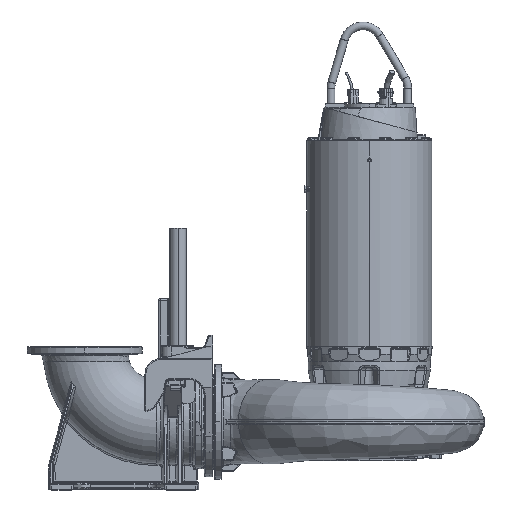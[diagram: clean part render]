
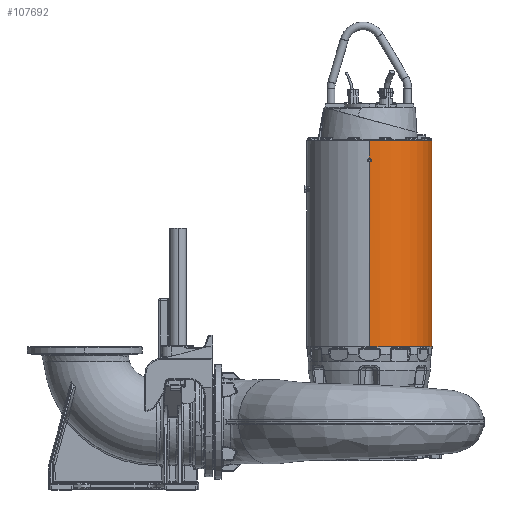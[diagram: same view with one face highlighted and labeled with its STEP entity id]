
A CAD part, top view. The second image highlights one B-rep face of the part: STEP entity #107692.
In plain terms, the highlighted cylindrical face has radius 322 mm (diameter 644 mm), a partial arc.
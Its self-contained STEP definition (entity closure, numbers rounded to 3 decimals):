
#220 = VERTEX_POINT ( 'NONE', #175279 ) ;
#1041 = CARTESIAN_POINT ( 'NONE',  ( 3.167, 930.859, -322. ) ) ;
#1392 = ORIENTED_EDGE ( 'NONE', *, *, #231148, .F. ) ;
#2151 = VECTOR ( 'NONE', #275818, 1000. ) ;
#7161 = DIRECTION ( 'NONE',  ( 0., -1., 0. ) ) ;
#8408 = VERTEX_POINT ( 'NONE', #128286 ) ;
#9678 = CARTESIAN_POINT ( 'NONE',  ( 9.5, 934.515, 321.86 ) ) ;
#11097 = AXIS2_PLACEMENT_3D ( 'NONE', #144288, #7161, #167360 ) ;
#11665 = CARTESIAN_POINT ( 'NONE',  ( 0., 929.03, 322. ) ) ;
#12415 =( BOUNDED_CURVE ( )  B_SPLINE_CURVE ( 3, ( #9678, #125664, #148755, #11665 ),
 .UNSPECIFIED., .F., .F. ) 
 B_SPLINE_CURVE_WITH_KNOTS ( ( 4, 4 ),
 ( 1.541, 1.571 ),
 .UNSPECIFIED. ) 
 CURVE ( )  GEOMETRIC_REPRESENTATION_ITEM ( )  RATIONAL_B_SPLINE_CURVE ( ( 1., 1., 1., 1. ) ) 
 REPRESENTATION_ITEM ( '' )  );
#25462 = DIRECTION ( 'NONE',  ( 0., -1., 0. ) ) ;
#31177 = VERTEX_POINT ( 'NONE', #118475 ) ;
#37735 = LINE ( 'NONE', #65121, #206117 ) ;
#43708 = LINE ( 'NONE', #93291, #273071 ) ;
#49382 = EDGE_LOOP ( 'NONE', ( #178478, #185965, #53600, #139860, #175888, #158227, #241424, #148206, #1392, #267059, #234858, #160331 ) ) ;
#50028 = CARTESIAN_POINT ( 'NONE',  ( 9.5, 934.515, -321.86 ) ) ;
#53600 = ORIENTED_EDGE ( 'NONE', *, *, #128378, .T. ) ;
#54023 = VECTOR ( 'NONE', #282494, 1000. ) ;
#54509 = CARTESIAN_POINT ( 'NONE',  ( 0., 950.97, -322. ) ) ;
#59909 = CARTESIAN_POINT ( 'NONE',  ( 0., 1040., 0. ) ) ;
#60588 = CARTESIAN_POINT ( 'NONE',  ( 0., 950.97, 322. ) ) ;
#62334 = EDGE_CURVE ( 'NONE', #220, #113668, #37735, .T. ) ;
#63170 =( BOUNDED_CURVE ( )  B_SPLINE_CURVE ( 3, ( #54509, #168588, #77452, #237757 ),
 .UNSPECIFIED., .F., .T. ) 
 B_SPLINE_CURVE_WITH_KNOTS ( ( 4, 4 ),
 ( 1.571, 1.6 ),
 .UNSPECIFIED. ) 
 CURVE ( )  GEOMETRIC_REPRESENTATION_ITEM ( )  RATIONAL_B_SPLINE_CURVE ( ( 1., 1., 1., 1. ) ) 
 REPRESENTATION_ITEM ( '' )  );
#65121 = CARTESIAN_POINT ( 'NONE',  ( 9.5, 1180.349, -321.86 ) ) ;
#69426 = CARTESIAN_POINT ( 'NONE',  ( 0., 929.03, -322. ) ) ;
#77452 = CARTESIAN_POINT ( 'NONE',  ( 6.334, 947.313, -321.953 ) ) ;
#82402 = EDGE_CURVE ( 'NONE', #289691, #119246, #205302, .T. ) ;
#82841 = DIRECTION ( 'NONE',  ( 0., 0., -1. ) ) ;
#83140 = CARTESIAN_POINT ( 'NONE',  ( 0., 929.03, 322. ) ) ;
#83780 = CYLINDRICAL_SURFACE ( 'NONE', #242300, 322. ) ;
#89425 = VERTEX_POINT ( 'NONE', #60588 ) ;
#93291 = CARTESIAN_POINT ( 'NONE',  ( 0., 0., 322. ) ) ;
#107692 = ADVANCED_FACE ( 'NONE', ( #112379 ), #83780, .T. ) ;
#109626 = CIRCLE ( 'NONE', #11097, 322. ) ;
#110012 = CARTESIAN_POINT ( 'NONE',  ( 9.5, 945.485, 321.86 ) ) ;
#112379 = FACE_OUTER_BOUND ( 'NONE', #49382, .T. ) ;
#113668 = VERTEX_POINT ( 'NONE', #50028 ) ;
#115372 = CARTESIAN_POINT ( 'NONE',  ( 0., 0., 322. ) ) ;
#116868 = EDGE_CURVE ( 'NONE', #8408, #219075, #268259, .T. ) ;
#118475 = CARTESIAN_POINT ( 'NONE',  ( 0., -20., 322. ) ) ;
#119246 = VERTEX_POINT ( 'NONE', #170186 ) ;
#119998 = AXIS2_PLACEMENT_3D ( 'NONE', #59909, #220108, #82841 ) ;
#123163 = CARTESIAN_POINT ( 'NONE',  ( 0., 950.97, 322. ) ) ;
#125664 = CARTESIAN_POINT ( 'NONE',  ( 6.334, 932.687, 321.953 ) ) ;
#125847 =( BOUNDED_CURVE ( )  B_SPLINE_CURVE ( 3, ( #275514, #138070, #1041, #161146 ),
 .UNSPECIFIED., .F., .T. ) 
 B_SPLINE_CURVE_WITH_KNOTS ( ( 4, 4 ),
 ( 1.541, 1.571 ),
 .UNSPECIFIED. ) 
 CURVE ( )  GEOMETRIC_REPRESENTATION_ITEM ( )  RATIONAL_B_SPLINE_CURVE ( ( 1., 1., 1., 1. ) ) 
 REPRESENTATION_ITEM ( '' )  );
#128286 = CARTESIAN_POINT ( 'NONE',  ( 0., 1040., -322. ) ) ;
#128378 = EDGE_CURVE ( 'NONE', #89425, #289691, #144976, .T. ) ;
#133206 = EDGE_CURVE ( 'NONE', #286339, #31177, #109626, .T. ) ;
#138070 = CARTESIAN_POINT ( 'NONE',  ( 6.334, 932.687, -321.953 ) ) ;
#139480 = CARTESIAN_POINT ( 'NONE',  ( 0., 0., -322. ) ) ;
#139860 = ORIENTED_EDGE ( 'NONE', *, *, #82402, .T. ) ;
#144288 = CARTESIAN_POINT ( 'NONE',  ( 0., -20., 0. ) ) ;
#144976 =( BOUNDED_CURVE ( )  B_SPLINE_CURVE ( 3, ( #123163, #201250, #247332, #110012 ),
 .UNSPECIFIED., .F., .T. ) 
 B_SPLINE_CURVE_WITH_KNOTS ( ( 4, 4 ),
 ( 1.571, 1.6 ),
 .UNSPECIFIED. ) 
 CURVE ( )  GEOMETRIC_REPRESENTATION_ITEM ( )  RATIONAL_B_SPLINE_CURVE ( ( 1., 1., 1., 1. ) ) 
 REPRESENTATION_ITEM ( '' )  );
#148148 = CARTESIAN_POINT ( 'NONE',  ( 0., -20., -322. ) ) ;
#148206 = ORIENTED_EDGE ( 'NONE', *, *, #261913, .F. ) ;
#148755 = CARTESIAN_POINT ( 'NONE',  ( 3.167, 930.859, 322. ) ) ;
#152864 = VERTEX_POINT ( 'NONE', #69426 ) ;
#158227 = ORIENTED_EDGE ( 'NONE', *, *, #293429, .T. ) ;
#160331 = ORIENTED_EDGE ( 'NONE', *, *, #165755, .F. ) ;
#161146 = CARTESIAN_POINT ( 'NONE',  ( 0., 929.03, -322. ) ) ;
#165755 = EDGE_CURVE ( 'NONE', #8408, #266611, #185693, .T. ) ;
#165938 = DIRECTION ( 'NONE',  ( 0., -1., 0. ) ) ;
#166925 = DIRECTION ( 'NONE',  ( 0., 0., -1. ) ) ;
#167360 = DIRECTION ( 'NONE',  ( 1., 0., 0. ) ) ;
#168588 = CARTESIAN_POINT ( 'NONE',  ( 3.167, 949.141, -322. ) ) ;
#170186 = CARTESIAN_POINT ( 'NONE',  ( 9.5, 934.515, 321.86 ) ) ;
#171587 = CARTESIAN_POINT ( 'NONE',  ( 9.5, 1180.349, 321.86 ) ) ;
#175279 = CARTESIAN_POINT ( 'NONE',  ( 9.5, 945.485, -321.86 ) ) ;
#175888 = ORIENTED_EDGE ( 'NONE', *, *, #226343, .T. ) ;
#177706 = LINE ( 'NONE', #115372, #2151 ) ;
#178478 = ORIENTED_EDGE ( 'NONE', *, *, #116868, .T. ) ;
#182946 = LINE ( 'NONE', #259499, #54023 ) ;
#185693 = LINE ( 'NONE', #139480, #253852 ) ;
#185965 = ORIENTED_EDGE ( 'NONE', *, *, #282013, .T. ) ;
#190826 = EDGE_CURVE ( 'NONE', #266611, #220, #63170, .T. ) ;
#196667 = CARTESIAN_POINT ( 'NONE',  ( 0., 950.97, -322. ) ) ;
#198365 = VERTEX_POINT ( 'NONE', #83140 ) ;
#201250 = CARTESIAN_POINT ( 'NONE',  ( 3.167, 949.141, 322. ) ) ;
#205302 = LINE ( 'NONE', #171587, #259101 ) ;
#206117 = VECTOR ( 'NONE', #225344, 1000. ) ;
#217745 = DIRECTION ( 'NONE',  ( 0., -1., 0. ) ) ;
#219075 = VERTEX_POINT ( 'NONE', #291567 ) ;
#220108 = DIRECTION ( 'NONE',  ( 0., -1., 0. ) ) ;
#225344 = DIRECTION ( 'NONE',  ( 0., -1., 0. ) ) ;
#226343 = EDGE_CURVE ( 'NONE', #119246, #198365, #12415, .T. ) ;
#231148 = EDGE_CURVE ( 'NONE', #113668, #152864, #125847, .T. ) ;
#234858 = ORIENTED_EDGE ( 'NONE', *, *, #190826, .F. ) ;
#237757 = CARTESIAN_POINT ( 'NONE',  ( 9.5, 945.485, -321.86 ) ) ;
#241424 = ORIENTED_EDGE ( 'NONE', *, *, #133206, .F. ) ;
#242300 = AXIS2_PLACEMENT_3D ( 'NONE', #280140, #165938, #166925 ) ;
#247332 = CARTESIAN_POINT ( 'NONE',  ( 6.334, 947.313, 321.953 ) ) ;
#253615 = DIRECTION ( 'NONE',  ( 0., -1., 0. ) ) ;
#253852 = VECTOR ( 'NONE', #25462, 1000. ) ;
#259101 = VECTOR ( 'NONE', #217745, 1000. ) ;
#259499 = CARTESIAN_POINT ( 'NONE',  ( 0., 0., -322. ) ) ;
#261913 = EDGE_CURVE ( 'NONE', #152864, #286339, #182946, .T. ) ;
#266611 = VERTEX_POINT ( 'NONE', #196667 ) ;
#267059 = ORIENTED_EDGE ( 'NONE', *, *, #62334, .F. ) ;
#268259 = CIRCLE ( 'NONE', #119998, 322. ) ;
#273071 = VECTOR ( 'NONE', #253615, 1000. ) ;
#275514 = CARTESIAN_POINT ( 'NONE',  ( 9.5, 934.515, -321.86 ) ) ;
#275818 = DIRECTION ( 'NONE',  ( 0., -1., 0. ) ) ;
#280140 = CARTESIAN_POINT ( 'NONE',  ( 0., 0., 0. ) ) ;
#282013 = EDGE_CURVE ( 'NONE', #219075, #89425, #43708, .T. ) ;
#282494 = DIRECTION ( 'NONE',  ( 0., -1., 0. ) ) ;
#283969 = CARTESIAN_POINT ( 'NONE',  ( 9.5, 945.485, 321.86 ) ) ;
#286339 = VERTEX_POINT ( 'NONE', #148148 ) ;
#289691 = VERTEX_POINT ( 'NONE', #283969 ) ;
#291567 = CARTESIAN_POINT ( 'NONE',  ( 0., 1040., 322. ) ) ;
#293429 = EDGE_CURVE ( 'NONE', #198365, #31177, #177706, .T. ) ;
